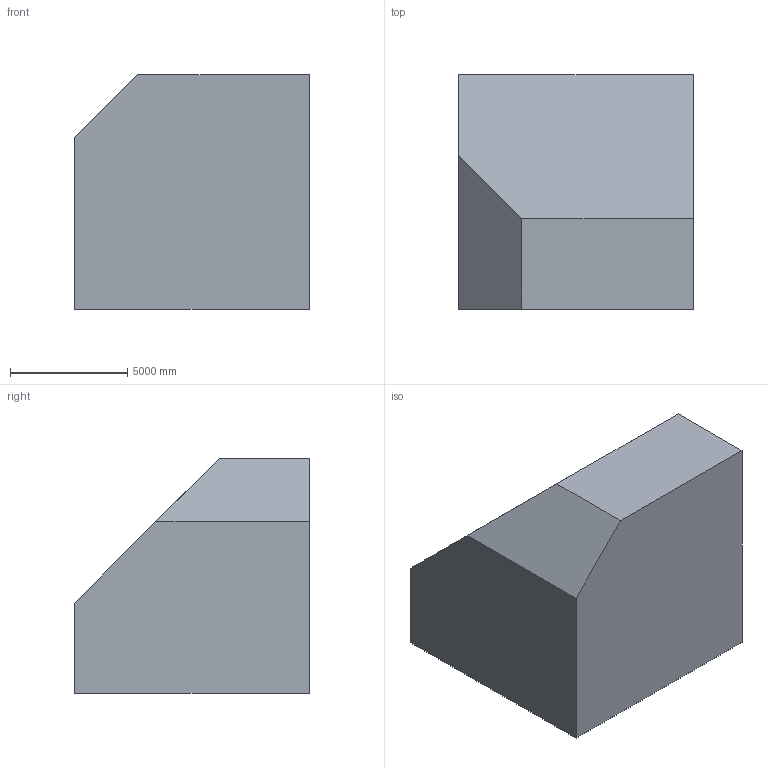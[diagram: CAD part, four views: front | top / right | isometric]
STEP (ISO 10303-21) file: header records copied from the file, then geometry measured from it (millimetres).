
FILE_DESCRIPTION (( 'STEP AP203' ), '1' );
FILE_NAME ('48.STEP', '2022-07-28T13:29:20', ( 'user' ), ( '' ), 'SwSTEP 2.0', 'SolidWorks 2021', '' );
FILE_SCHEMA (( 'CONFIG_CONTROL_DESIGN' ));
Length unit declared in the file: centimetre
Products named in the file (1): 48
Bounding box: 10000 x 10000 x 10000 mm (x, y, z)
Volume: 793424258711.1 mm3; surface area: 512763638.5 mm2
Topology: 1 solids, 1 shells, 8 faces, 18 edges, 12 vertices
Faces by surface type: plane 8
Entity records: 299 total; most frequent: CARTESIAN_POINT 39, ORIENTED_EDGE 36, DIRECTION 36, VECTOR 18, LINE 18, EDGE_CURVE 18, VERTEX_POINT 12, AXIS2_PLACEMENT_3D 9
